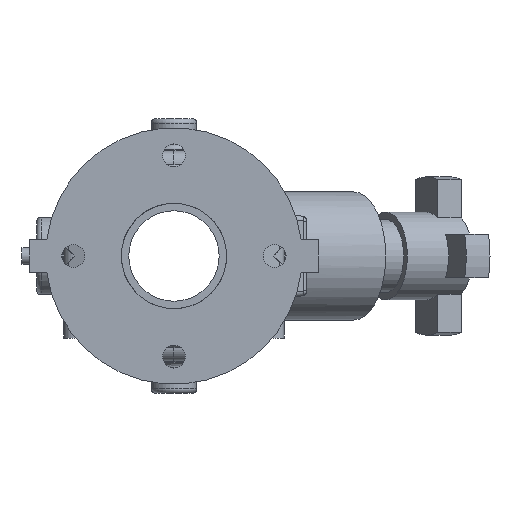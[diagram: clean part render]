
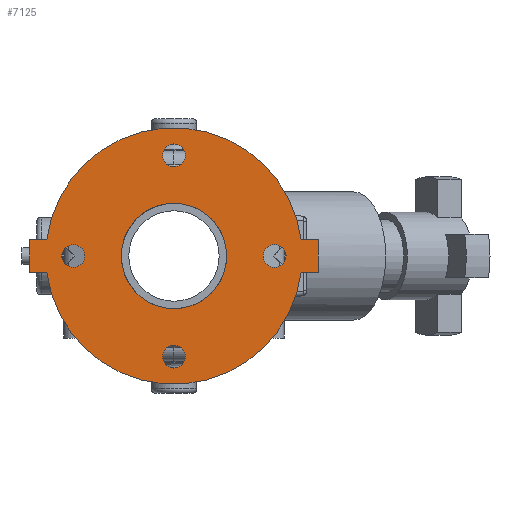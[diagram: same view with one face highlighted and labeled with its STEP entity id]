
A CAD part, front view. The second image highlights one B-rep face of the part: STEP entity #7125.
In plain terms, the highlighted planar face has unit normal (0, -1, 0) as drawn and (0, 0, 1) by its records, which use the part's own axes.
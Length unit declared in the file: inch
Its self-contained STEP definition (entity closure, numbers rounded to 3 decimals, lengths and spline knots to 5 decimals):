
#316=FACE_BOUND('',#976,.T.);
#317=FACE_BOUND('',#977,.T.);
#318=FACE_BOUND('',#978,.T.);
#319=FACE_BOUND('',#979,.T.);
#320=FACE_BOUND('',#980,.T.);
#385=PLANE('',#7741);
#574=FACE_OUTER_BOUND('',#975,.T.);
#975=EDGE_LOOP('',(#4560,#4561,#4562,#4563,#4564,#4565,#4566,#4567));
#976=EDGE_LOOP('',(#4568));
#977=EDGE_LOOP('',(#4569));
#978=EDGE_LOOP('',(#4570));
#979=EDGE_LOOP('',(#4571));
#980=EDGE_LOOP('',(#4572,#4573));
#1435=LINE('',#10769,#1919);
#1436=LINE('',#10772,#1920);
#1439=LINE('',#10777,#1923);
#1440=LINE('',#10780,#1924);
#1442=LINE('',#10783,#1926);
#1443=LINE('',#10785,#1927);
#1919=VECTOR('',#8615,0.3937);
#1920=VECTOR('',#8618,0.3937);
#1923=VECTOR('',#8623,0.3937);
#1924=VECTOR('',#8626,0.3937);
#1926=VECTOR('',#8630,0.3937);
#1927=VECTOR('',#8633,0.3937);
#2387=CIRCLE('',#7712,0.3125);
#2389=CIRCLE('',#7715,0.3125);
#2391=CIRCLE('',#7718,0.3125);
#2393=CIRCLE('',#7721,0.3125);
#2399=CIRCLE('',#7729,3.5);
#2400=CIRCLE('',#7731,1.4375);
#2401=CIRCLE('',#7732,1.4375);
#2402=CIRCLE('',#7734,3.5);
#2776=VERTEX_POINT('',#10704);
#2778=VERTEX_POINT('',#10710);
#2780=VERTEX_POINT('',#10716);
#2782=VERTEX_POINT('',#10722);
#2794=VERTEX_POINT('',#10749);
#2795=VERTEX_POINT('',#10751);
#2796=VERTEX_POINT('',#10755);
#2797=VERTEX_POINT('',#10757);
#2798=VERTEX_POINT('',#10761);
#2799=VERTEX_POINT('',#10763);
#2800=VERTEX_POINT('',#10767);
#2801=VERTEX_POINT('',#10771);
#2802=VERTEX_POINT('',#10775);
#2803=VERTEX_POINT('',#10779);
#3458=EDGE_CURVE('',#2776,#2776,#2387,.T.);
#3461=EDGE_CURVE('',#2778,#2778,#2389,.T.);
#3464=EDGE_CURVE('',#2780,#2780,#2391,.T.);
#3467=EDGE_CURVE('',#2782,#2782,#2393,.T.);
#3482=EDGE_CURVE('',#2794,#2795,#2399,.T.);
#3484=EDGE_CURVE('',#2797,#2796,#2400,.T.);
#3485=EDGE_CURVE('',#2796,#2797,#2401,.T.);
#3487=EDGE_CURVE('',#2799,#2798,#2402,.T.);
#3490=EDGE_CURVE('',#2795,#2800,#1435,.T.);
#3491=EDGE_CURVE('',#2801,#2799,#1436,.T.);
#3494=EDGE_CURVE('',#2798,#2802,#1439,.T.);
#3495=EDGE_CURVE('',#2803,#2794,#1440,.T.);
#3497=EDGE_CURVE('',#2802,#2803,#1442,.T.);
#3498=EDGE_CURVE('',#2800,#2801,#1443,.T.);
#4560=ORIENTED_EDGE('',*,*,#3494,.T.);
#4561=ORIENTED_EDGE('',*,*,#3497,.T.);
#4562=ORIENTED_EDGE('',*,*,#3495,.T.);
#4563=ORIENTED_EDGE('',*,*,#3482,.T.);
#4564=ORIENTED_EDGE('',*,*,#3490,.T.);
#4565=ORIENTED_EDGE('',*,*,#3498,.T.);
#4566=ORIENTED_EDGE('',*,*,#3491,.T.);
#4567=ORIENTED_EDGE('',*,*,#3487,.T.);
#4568=ORIENTED_EDGE('',*,*,#3458,.T.);
#4569=ORIENTED_EDGE('',*,*,#3461,.T.);
#4570=ORIENTED_EDGE('',*,*,#3464,.T.);
#4571=ORIENTED_EDGE('',*,*,#3467,.T.);
#4572=ORIENTED_EDGE('',*,*,#3484,.T.);
#4573=ORIENTED_EDGE('',*,*,#3485,.T.);
#7125=ADVANCED_FACE('',(#574,#316,#317,#318,#319,#320),#385,.T.);
#7712=AXIS2_PLACEMENT_3D('',#10705,#8551,#8552);
#7715=AXIS2_PLACEMENT_3D('',#10711,#8558,#8559);
#7718=AXIS2_PLACEMENT_3D('',#10717,#8565,#8566);
#7721=AXIS2_PLACEMENT_3D('',#10723,#8572,#8573);
#7729=AXIS2_PLACEMENT_3D('',#10753,#8597,#8598);
#7731=AXIS2_PLACEMENT_3D('',#10758,#8602,#8603);
#7732=AXIS2_PLACEMENT_3D('',#10759,#8604,#8605);
#7734=AXIS2_PLACEMENT_3D('',#10764,#8609,#8610);
#7741=AXIS2_PLACEMENT_3D('',#10786,#8634,#8635);
#8551=DIRECTION('center_axis',(0.,0.,-1.));
#8552=DIRECTION('ref_axis',(0.,1.,0.));
#8558=DIRECTION('center_axis',(0.,0.,-1.));
#8559=DIRECTION('ref_axis',(1.,0.,0.));
#8565=DIRECTION('center_axis',(0.,0.,-1.));
#8566=DIRECTION('ref_axis',(0.,-1.,0.));
#8572=DIRECTION('center_axis',(0.,0.,-1.));
#8573=DIRECTION('ref_axis',(-1.,0.,0.));
#8597=DIRECTION('center_axis',(0.,0.,1.));
#8598=DIRECTION('ref_axis',(-1.,0.,0.));
#8602=DIRECTION('center_axis',(0.,0.,-1.));
#8603=DIRECTION('ref_axis',(-1.,0.,0.));
#8604=DIRECTION('center_axis',(0.,0.,-1.));
#8605=DIRECTION('ref_axis',(-1.,0.,0.));
#8609=DIRECTION('center_axis',(0.,0.,1.));
#8610=DIRECTION('ref_axis',(-1.,0.,0.));
#8615=DIRECTION('',(0.,1.,0.));
#8618=DIRECTION('',(0.,-1.,0.));
#8623=DIRECTION('',(0.,-1.,0.));
#8626=DIRECTION('',(0.,1.,0.));
#8630=DIRECTION('',(1.,0.,0.));
#8633=DIRECTION('',(-1.,0.,0.));
#8634=DIRECTION('center_axis',(0.,0.,1.));
#8635=DIRECTION('ref_axis',(1.,0.,0.));
#10704=CARTESIAN_POINT('',(0.,2.4375,0.44));
#10705=CARTESIAN_POINT('Origin',(0.,2.75,0.44));
#10710=CARTESIAN_POINT('',(2.4375,0.,0.44));
#10711=CARTESIAN_POINT('Origin',(2.75,0.,0.44));
#10716=CARTESIAN_POINT('',(0.,-2.4375,0.44));
#10717=CARTESIAN_POINT('Origin',(0.,-2.75,0.44));
#10722=CARTESIAN_POINT('',(-2.4375,0.,0.44));
#10723=CARTESIAN_POINT('Origin',(-2.75,0.,0.44));
#10749=CARTESIAN_POINT('',(0.44,-3.47223,0.44));
#10751=CARTESIAN_POINT('',(0.44,3.47223,0.44));
#10753=CARTESIAN_POINT('Origin',(0.,0.,0.44));
#10755=CARTESIAN_POINT('',(1.4375,0.,0.44));
#10757=CARTESIAN_POINT('',(0.44,1.36851,0.44));
#10758=CARTESIAN_POINT('Origin',(0.,0.,0.44));
#10759=CARTESIAN_POINT('Origin',(0.,0.,0.44));
#10761=CARTESIAN_POINT('',(-0.44,-3.47223,0.44));
#10763=CARTESIAN_POINT('',(-0.44,3.47223,0.44));
#10764=CARTESIAN_POINT('Origin',(0.,0.,0.44));
#10767=CARTESIAN_POINT('',(0.44,3.94,0.44));
#10769=CARTESIAN_POINT('',(0.44,3.94,0.44));
#10771=CARTESIAN_POINT('',(-0.44,3.94,0.44));
#10772=CARTESIAN_POINT('',(-0.44,-3.94,0.44));
#10775=CARTESIAN_POINT('',(-0.44,-3.94,0.44));
#10777=CARTESIAN_POINT('',(-0.44,-3.94,0.44));
#10779=CARTESIAN_POINT('',(0.44,-3.94,0.44));
#10780=CARTESIAN_POINT('',(0.44,3.94,0.44));
#10783=CARTESIAN_POINT('',(0.44,-3.94,0.44));
#10785=CARTESIAN_POINT('',(-0.44,3.94,0.44));
#10786=CARTESIAN_POINT('Origin',(0.,0.,0.44));
